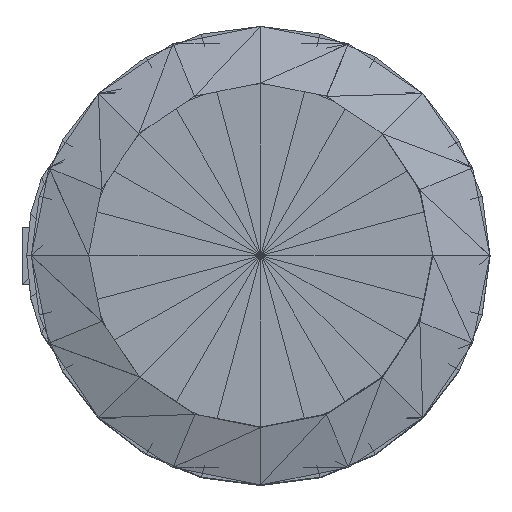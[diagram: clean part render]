
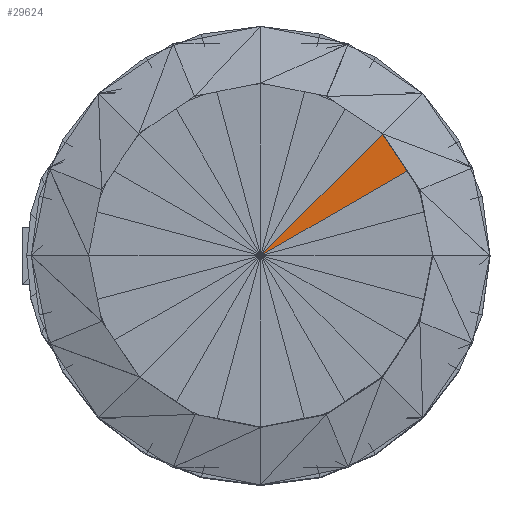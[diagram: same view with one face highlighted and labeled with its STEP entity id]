
A CAD part, top view. The second image highlights one B-rep face of the part: STEP entity #29624.
In plain terms, the highlighted planar face has unit normal (0, 0, 1).
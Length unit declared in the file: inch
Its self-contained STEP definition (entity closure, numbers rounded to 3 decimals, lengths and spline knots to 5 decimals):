
#29539=CARTESIAN_POINT('',(0.,-0.00005,0.25543));
#29540=VERTEX_POINT('',#29539);
#29584=CARTESIAN_POINT('',(0.06629,0.06624,0.25544));
#29585=VERTEX_POINT('',#29584);
#29593=CARTESIAN_POINT('',(-0.,-0.00005,0.25543));
#29594=DIRECTION('',(0.707,0.707,0.));
#29595=VECTOR('',#29594,0.09375);
#29596=LINE('',#29593,#29595);
#29597=EDGE_CURVE('',#29540,#29585,#29596,.T.);
#29602=CARTESIAN_POINT('',(0.08119,0.04683,0.25544));
#29603=DIRECTION('',(0.,0.,1.));
#29604=DIRECTION('',(1.,0.,0.));
#29605=AXIS2_PLACEMENT_3D('',#29602,#29603,#29604);
#29606=PLANE('',#29605);
#29607=CARTESIAN_POINT('',(0.08119,0.04683,0.25544));
#29608=VERTEX_POINT('',#29607);
#29609=CARTESIAN_POINT('',(0.08119,0.04683,0.25544));
#29610=DIRECTION('',(-0.609,0.793,0.));
#29611=VECTOR('',#29610,0.02447);
#29612=LINE('',#29609,#29611);
#29613=EDGE_CURVE('',#29608,#29585,#29612,.T.);
#29614=ORIENTED_EDGE('',*,*,#29613,.T.);
#29615=ORIENTED_EDGE('',*,*,#29597,.F.);
#29616=CARTESIAN_POINT('',(-0.,-0.00005,0.25543));
#29617=DIRECTION('',(0.866,0.5,0.));
#29618=VECTOR('',#29617,0.09375);
#29619=LINE('',#29616,#29618);
#29620=EDGE_CURVE('',#29540,#29608,#29619,.T.);
#29621=ORIENTED_EDGE('',*,*,#29620,.T.);
#29622=EDGE_LOOP('',(#29614,#29615,#29621));
#29623=FACE_BOUND('',#29622,.T.);
#29624=ADVANCED_FACE('',(#29623),#29606,.T.);
